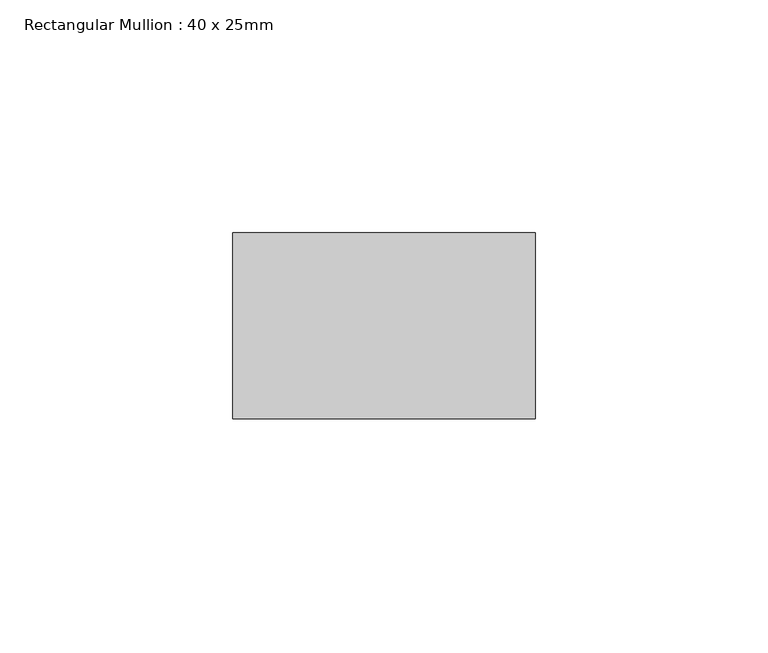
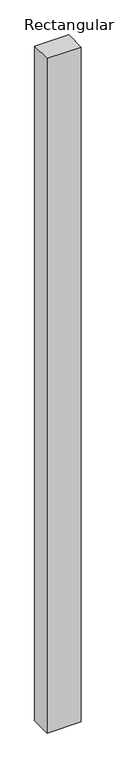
"""IFC4 building model written with IfcOpenShell, lengths in millimetres: member geometry, Rectangular Mullion : 40 x 25mm."""

import ifcopenshell
import ifcopenshell.guid

model = None  # the IFC model being written
_history = None  # IfcOwnerHistory: only IFC2X3 demands one
_inside = {}  # id of a spatial element -> (the spatial element, [elements in it])
_under = {}  # id of a project, library or spatial element -> (it, [spatial elements below it])
_declared = {}  # id of a project -> (the project, [libraries it declares])
_typed = {}  # id of a type object -> (the type object, [elements of that type])
_made_of = {}  # id of a material, layer set ... -> (it, [elements and type objects made of it])


def new_model(schema):
    """Start an empty IFC model of exactly this schema.

    Asked for "IFC4X3", IfcOpenShell would pick the latest addendum, in which some entities
    have other attributes; the version numbers below select the first issue.
    IFC2X3 requires an IfcOwnerHistory on every rooted entity: one is made here for all.
    """
    global model, _history
    if schema == "IFC4X3":
        model = ifcopenshell.file(schema_version=(4, 3, 0, 0))
    else:
        model = ifcopenshell.file(schema=schema)
    _inside.clear()
    _under.clear()
    _declared.clear()
    _typed.clear()
    _made_of.clear()
    _history = None
    if model.schema == "IFC2X3":
        org = make("IfcOrganization", Name="unknown")
        user = make(
            "IfcPersonAndOrganization",
            ThePerson=make("IfcPerson", FamilyName="unknown"),
            TheOrganization=org,
        )
        app = make(
            "IfcApplication",
            ApplicationDeveloper=org,
            Version="unknown",
            ApplicationFullName="unknown",
            ApplicationIdentifier="unknown",
        )
        _history = make(
            "IfcOwnerHistory",
            OwningUser=user,
            OwningApplication=app,
            ChangeAction="ADDED",
            CreationDate=0,
        )
    return model


def make(cls, **values):
    """One entity of the class cls with the attributes given. An attribute that is None is left unset."""
    return model.create_entity(
        cls, **{name: value for name, value in values.items() if value is not None}
    )


def rooted(cls, **values):
    """An entity with a GlobalId (a new one), such as an element, a storey or a relation."""
    return make(cls, GlobalId=ifcopenshell.guid.new(), OwnerHistory=_history, **values)


def si_unit(unit_type, name, prefix=None):
    """IfcSIUnit, for example si_unit("LENGTHUNIT", "METRE", prefix="MILLI")."""
    return make("IfcSIUnit", UnitType=unit_type, Prefix=prefix, Name=name)


def assignment(units):
    """IfcUnitAssignment: the units of a project."""
    return None if units is None else make("IfcUnitAssignment", Units=units)


def point(xyz):
    """IfcCartesianPoint."""
    return None if xyz is None else make("IfcCartesianPoint", Coordinates=xyz)


def direction(xyz):
    """IfcDirection."""
    return None if xyz is None else make("IfcDirection", DirectionRatios=xyz)


def frame(location, z_axis=None, x_axis=None):
    """IfcAxis2Placement3D, a coordinate frame: its origin and axes. An axis left out is left unset."""
    return make(
        "IfcAxis2Placement3D",
        Location=point(location),
        Axis=direction(z_axis),
        RefDirection=direction(x_axis),
    )


def origin():
    """The frame at (0, 0, 0) with its axes left unset."""
    return frame((0.0, 0.0, 0.0))


def place(relative_to, where):
    """IfcLocalPlacement: puts the frame where relative to a parent placement (None: the world)."""
    return make(
        "IfcLocalPlacement", PlacementRelTo=relative_to, RelativePlacement=where
    )


def context(
    kind, dimensions, precision=None, world=None, true_north=None, identifier=None
):
    """IfcGeometricRepresentationContext, for example the 3D "Model" context."""
    return make(
        "IfcGeometricRepresentationContext",
        ContextIdentifier=identifier,
        ContextType=kind,
        CoordinateSpaceDimension=dimensions,
        Precision=precision,
        WorldCoordinateSystem=world,
        TrueNorth=true_north,
    )


def project(units=None, contexts=None):
    """IfcProject with its units and contexts."""
    return rooted(
        "IfcProject",
        Name="project",
        RepresentationContexts=contexts,
        UnitsInContext=assignment(units),
    )


def spatial(cls, under=None, at=None, **own):
    """A site, building, storey or space (cls), placed at a placement, below another one or the project."""
    s = rooted(cls, ObjectPlacement=at, **own)
    if under is not None:
        _under.setdefault(under.id(), (under, []))[1].append(s)
    return s


def polyline(points):
    """IfcPolyline through the points."""
    return make("IfcPolyline", Points=[point(p) for p in points])


def outline(outer, holes=None, kind="AREA"):
    """IfcArbitraryClosedProfileDef: a profile drawn as a closed curve; with holes, ...WithVoids."""
    if holes is None:
        return make("IfcArbitraryClosedProfileDef", ProfileType=kind, OuterCurve=outer)
    return make(
        "IfcArbitraryProfileDefWithVoids",
        ProfileType=kind,
        OuterCurve=outer,
        InnerCurves=holes,
    )


def extrude(swept, where, along, depth):
    """IfcExtrudedAreaSolid: the profile swept, set in the frame where, extruded along a direction by depth."""
    return make(
        "IfcExtrudedAreaSolid",
        SweptArea=swept,
        Position=where,
        ExtrudedDirection=direction(along),
        Depth=depth,
    )


def shape(context_of_items, identifier, shape_type, items):
    """IfcShapeRepresentation: the items that make up one representation, for example the "Body"."""
    return make(
        "IfcShapeRepresentation",
        ContextOfItems=context_of_items,
        RepresentationIdentifier=identifier,
        RepresentationType=shape_type,
        Items=items,
    )


def source(mapping_origin, context_of_items, identifier, shape_type, items):
    """IfcRepresentationMap: a shape defined once, which mapped items show again and again."""
    return make(
        "IfcRepresentationMap",
        MappingOrigin=mapping_origin,
        MappedRepresentation=shape(context_of_items, identifier, shape_type, items),
    )


def transform(
    local_origin,
    x_axis=None,
    y_axis=None,
    z_axis=None,
    scale=None,
    scale2=None,
    scale3=None,
    uniform=True,
):
    """IfcCartesianTransformationOperator3D, or its non-uniform kind. x_axis, y_axis, z_axis: its Axis1, 2, 3."""
    if uniform:
        return make(
            "IfcCartesianTransformationOperator3D",
            Axis1=direction(x_axis),
            Axis2=direction(y_axis),
            LocalOrigin=point(local_origin),
            Scale=scale,
            Axis3=direction(z_axis),
        )
    return make(
        "IfcCartesianTransformationOperator3DnonUniform",
        Axis1=direction(x_axis),
        Axis2=direction(y_axis),
        LocalOrigin=point(local_origin),
        Scale=scale,
        Axis3=direction(z_axis),
        Scale2=scale2,
        Scale3=scale3,
    )


def mapped(mapping_source, mapping_target):
    """IfcMappedItem: shows the shape of a source again, moved by a transform."""
    return make(
        "IfcMappedItem", MappingSource=mapping_source, MappingTarget=mapping_target
    )


def made_of(thing, what):
    """Note that an element or type object is made of a material, layer set ...; save() writes the relation."""
    if what is not None:
        _made_of.setdefault(what.id(), (what, []))[1].append(thing)
    return thing


def element(
    cls,
    number,
    at=None,
    inside=None,
    cuts=None,
    type_object=None,
    material=None,
    context=None,
    identifier="Body",
    shape_type=None,
    held_by="IfcProductDefinitionShape",
    body=None,
    shapes=None,
    **own,
):
    """One element of the class cls, such as IfcWall. Its Tag is "e" and its number.

    at: its placement. inside: the storey or other place that contains it. cuts: it is an
    opening in that element (IfcRelVoidsElement). A single representation is given by context,
    identifier, shape_type and body (its items); several are given by shapes. held_by: the class
    of the entity that holds the representations. save() writes the other relations.
    """
    e = rooted(cls, Tag="e%d" % number, ObjectPlacement=at, **own)
    if body is not None:
        shapes = [shape(context, identifier, shape_type, body)]
    if shapes is not None:
        e.Representation = make(held_by, Representations=shapes)
    if inside is not None:
        _inside.setdefault(inside.id(), (inside, []))[1].append(e)
    if cuts is not None:
        rooted(
            "IfcRelVoidsElement", RelatingBuildingElement=cuts, RelatedOpeningElement=e
        )
    if type_object is not None:
        _typed.setdefault(type_object.id(), (type_object, []))[1].append(e)
    return made_of(e, material)


def aggregate(whole, parts):
    """IfcRelAggregates: a whole, such as a stair, and the parts it consists of."""
    return rooted("IfcRelAggregates", RelatingObject=whole, RelatedObjects=parts)


def save(model, path):
    """Write the relations noted so far, then the file.

    IfcRelAggregates (storeys below a building ...), IfcRelContainedInSpatialStructure (elements
    in a storey), IfcRelDefinesByType, IfcRelAssociatesMaterial and IfcRelDeclares: one each for
    every whole, place, type object, material and project.
    """
    for whole, parts in _under.values():
        aggregate(whole, parts)
    for where, things in _inside.values():
        rooted(
            "IfcRelContainedInSpatialStructure",
            RelatedElements=things,
            RelatingStructure=where,
        )
    for kind, things in _typed.values():
        rooted("IfcRelDefinesByType", RelatedObjects=things, RelatingType=kind)
    for what, things in _made_of.values():
        rooted("IfcRelAssociatesMaterial", RelatedObjects=things, RelatingMaterial=what)
    for by, libraries in _declared.values():
        rooted("IfcRelDeclares", RelatingContext=by, RelatedDefinitions=libraries)
    model.write(path)


def rectangular_mullion_40_x_25mm_443edbe0(model_context):
    return source(origin(), model_context, "Body", "SweptSolid", [
        extrude(outline(polyline([(0.0, -20.0), (0.0, -60.0), (-65.0, -60.0), (-65.0, -20.0), (0.0, -20.0)])), frame((0.0, 0.0, -1352.8767992), z_axis=(0.0, 0.0, 1.0), x_axis=(1.0, 0.0, 0.0)), (0.0, 0.0, 1.0), 1352.8767992),
    ])


if __name__ == "__main__":
    model = new_model("IFC4")
    model_context = context("Model", 3, world=origin())
    ifc_project = project(units=[si_unit("LENGTHUNIT", "METRE", prefix="MILLI")], contexts=[model_context])
    site = spatial("IfcSite", under=ifc_project)
    building = spatial("IfcBuilding", under=site)
    placement = place(None, origin())
    rectangular_mullion_40_x_25mm_shape = rectangular_mullion_40_x_25mm_443edbe0(model_context)
    element("IfcMember", 1, ObjectType="Rectangular Mullion : 40 x 25mm", at=placement, inside=building, context=model_context, shape_type="MappedRepresentation", body=[
        mapped(rectangular_mullion_40_x_25mm_shape, transform((0.0, 0.0, 0.0), x_axis=(1.0, 0.0, 0.0), y_axis=(0.0, 1.0, 0.0), z_axis=(0.0, 0.0, 1.0))),
    ])
    save(model, "model.ifc")
